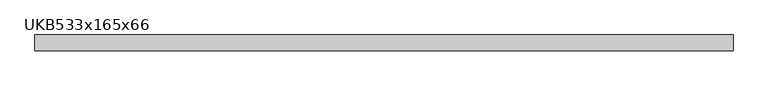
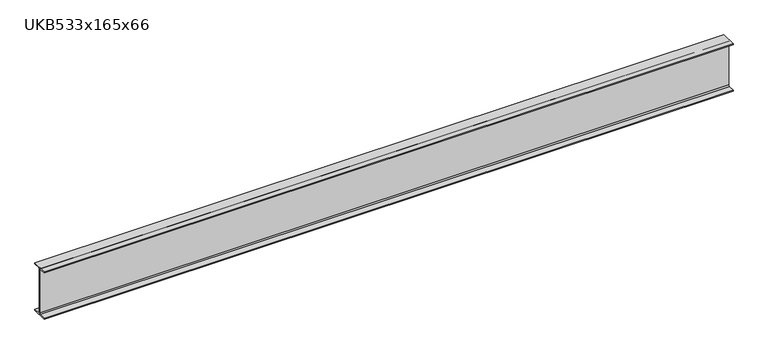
"""IFC4 building model written with IfcOpenShell, lengths in millimetres: beam geometry, UKB-UK Beams : UKB533x165x66."""

from ifc_helpers import new_model, si_unit, point, frame, frame_2d, origin, place, context, project, spatial, polyline, circle_curve, trimmed, segment, composite_curve, outline, extrude, source, transform, mapped, element, save


def ukb533x165x66_edf94f72(model_context):
    return source(origin(), model_context, "Body", "SweptSolid", [
        extrude(outline(composite_curve([segment(polyline([(82.55, -250.95), (82.55, -262.35), (-82.55, -262.35), (-82.55, -250.95), (-17.15, -250.95)]), True, "CONTINUOUS"), segment(trimmed(circle_curve(frame_2d((-17.15, -238.25)), 12.7), [point((-17.15, -250.95))], [point((-4.45, -238.25))], True, "CARTESIAN"), True, "CONTINUOUS"), segment(polyline([(-4.45, -238.25), (-4.45, 238.25)]), True, "CONTINUOUS"), segment(trimmed(circle_curve(frame_2d((-17.15, 238.25)), 12.7), [point((-4.45, 238.25))], [point((-17.15, 250.95))], True, "CARTESIAN"), True, "CONTINUOUS"), segment(polyline([(-17.15, 250.95), (-82.55, 250.95), (-82.55, 262.35), (82.55, 262.35), (82.55, 250.95), (17.15, 250.95)]), True, "CONTINUOUS"), segment(trimmed(circle_curve(frame_2d((17.15, 238.25)), 12.7), [point((17.15, 250.95))], [point((4.45, 238.25))], True, "CARTESIAN"), True, "CONTINUOUS"), segment(polyline([(4.45, 238.25), (4.45, -238.25)]), True, "CONTINUOUS"), segment(trimmed(circle_curve(frame_2d((17.15, -238.25)), 12.7), [point((4.45, -238.25))], [point((17.15, -250.95))], True, "CARTESIAN"), True, "CONTINUOUS"), segment(polyline([(17.15, -250.95), (82.55, -250.95)]), True, "CONTINUOUS")], self_intersect=False)), frame((-3604.5, 0.0, 0.0), z_axis=(1.0, 0.0, 0.0), x_axis=(0.0, 1.0, 0.0)), (0.0, 0.0, 1.0), 7209.0),
    ])


if __name__ == "__main__":
    model = new_model("IFC4")
    model_context = context("Model", 3, world=origin())
    ifc_project = project(units=[si_unit("LENGTHUNIT", "METRE", prefix="MILLI")], contexts=[model_context])
    site = spatial("IfcSite", under=ifc_project)
    building = spatial("IfcBuilding", under=site)
    placement = place(None, origin())
    ukb533x165x66_shape = ukb533x165x66_edf94f72(model_context)
    element("IfcBeam", 1, ObjectType="UKB-UK Beams : UKB533x165x66", at=placement, inside=building, context=model_context, shape_type="MappedRepresentation", body=[
        mapped(ukb533x165x66_shape, transform((0.0, 0.0, 0.0), x_axis=(1.0, 0.0, 0.0), y_axis=(0.0, 1.0, 0.0), z_axis=(0.0, 0.0, 1.0))),
    ])
    save(model, "model.ifc")
